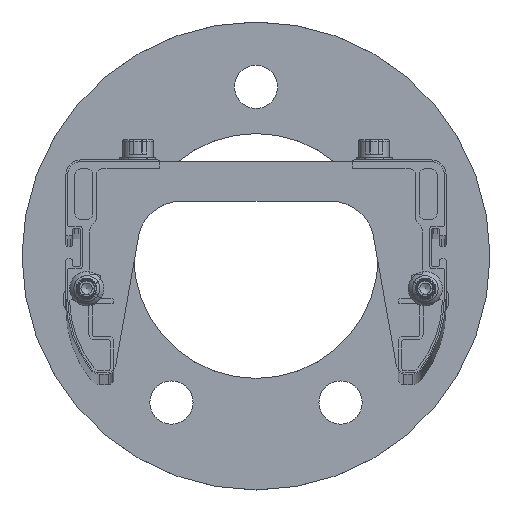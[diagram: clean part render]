
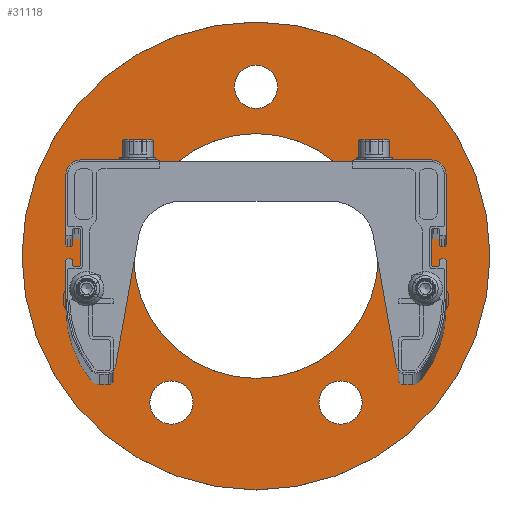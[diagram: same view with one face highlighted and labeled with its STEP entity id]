
A CAD part, top view. The second image highlights one B-rep face of the part: STEP entity #31118.
In plain terms, the highlighted planar face has unit normal (0, 0, 1).
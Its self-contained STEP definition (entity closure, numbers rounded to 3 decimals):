
#26496=PLANE('',#104198);
#31118=ADVANCED_FACE('',(#35068,#35069,#35070,#35071,#35072,#35073,#35074),
#26496,.T.);
#35068=FACE_BOUND('',#40669,.T.);
#35069=FACE_BOUND('',#40670,.T.);
#35070=FACE_BOUND('',#40671,.T.);
#35071=FACE_BOUND('',#40672,.T.);
#35072=FACE_BOUND('',#40673,.T.);
#35073=FACE_BOUND('',#40674,.T.);
#35074=FACE_BOUND('',#40675,.T.);
#40669=EDGE_LOOP('',(#64520));
#40670=EDGE_LOOP('',(#64521));
#40671=EDGE_LOOP('',(#64522));
#40672=EDGE_LOOP('',(#64523));
#40673=EDGE_LOOP('',(#64524));
#40674=EDGE_LOOP('',(#64525));
#40675=EDGE_LOOP('',(#64526));
#64520=ORIENTED_EDGE('',*,*,#88527,.F.);
#64521=ORIENTED_EDGE('',*,*,#88528,.F.);
#64522=ORIENTED_EDGE('',*,*,#88529,.F.);
#64523=ORIENTED_EDGE('',*,*,#88530,.T.);
#64524=ORIENTED_EDGE('',*,*,#88531,.T.);
#64525=ORIENTED_EDGE('',*,*,#88532,.T.);
#64526=ORIENTED_EDGE('',*,*,#88533,.F.);
#75868=VERTEX_POINT('',#168503);
#75869=VERTEX_POINT('',#168505);
#75870=VERTEX_POINT('',#168507);
#75871=VERTEX_POINT('',#168509);
#75872=VERTEX_POINT('',#168511);
#75873=VERTEX_POINT('',#168513);
#75874=VERTEX_POINT('',#168515);
#88527=EDGE_CURVE('',#75868,#75868,#94178,.T.);
#88528=EDGE_CURVE('',#75869,#75869,#94179,.T.);
#88529=EDGE_CURVE('',#75870,#75870,#94180,.T.);
#88530=EDGE_CURVE('',#75871,#75871,#94181,.T.);
#88531=EDGE_CURVE('',#75872,#75872,#94182,.T.);
#88532=EDGE_CURVE('',#75873,#75873,#94183,.T.);
#88533=EDGE_CURVE('',#75874,#75874,#94184,.T.);
#94178=CIRCLE('',#104191,6.);
#94179=CIRCLE('',#104192,6.);
#94180=CIRCLE('',#104193,6.);
#94181=CIRCLE('',#104194,34.);
#94182=CIRCLE('',#104195,3.6);
#94183=CIRCLE('',#104196,3.6);
#94184=CIRCLE('',#104197,65.);
#104191=AXIS2_PLACEMENT_3D('',#168502,#130504,#130505);
#104192=AXIS2_PLACEMENT_3D('',#168504,#130506,#130507);
#104193=AXIS2_PLACEMENT_3D('',#168506,#130508,#130509);
#104194=AXIS2_PLACEMENT_3D('',#168508,#130510,#130511);
#104195=AXIS2_PLACEMENT_3D('',#168510,#130512,#130513);
#104196=AXIS2_PLACEMENT_3D('',#168512,#130514,#130515);
#104197=AXIS2_PLACEMENT_3D('',#168514,#130516,#130517);
#104198=AXIS2_PLACEMENT_3D('',#168516,#130518,#130519);
#130504=DIRECTION('',(0.,0.,1.));
#130505=DIRECTION('',(-1.,0.,0.));
#130506=DIRECTION('',(0.,0.,1.));
#130507=DIRECTION('',(-1.,0.,0.));
#130508=DIRECTION('',(0.,0.,1.));
#130509=DIRECTION('',(-1.,0.,0.));
#130510=DIRECTION('',(0.,0.,-1.));
#130511=DIRECTION('',(-1.,0.,0.));
#130512=DIRECTION('',(0.,0.,-1.));
#130513=DIRECTION('',(1.,0.,0.));
#130514=DIRECTION('',(0.,0.,-1.));
#130515=DIRECTION('',(1.,0.,0.));
#130516=DIRECTION('',(0.,0.,-1.));
#130517=DIRECTION('',(-1.,0.,0.));
#130518=DIRECTION('',(0.,0.,1.));
#130519=DIRECTION('',(-1.,0.,0.));
#168502=CARTESIAN_POINT('',(293.846,-100.913,-285.));
#168503=CARTESIAN_POINT('',(287.846,-100.913,-285.));
#168504=CARTESIAN_POINT('',(317.346,-13.21,-285.));
#168505=CARTESIAN_POINT('',(311.346,-13.21,-285.));
#168506=CARTESIAN_POINT('',(340.846,-100.913,-285.));
#168507=CARTESIAN_POINT('',(334.846,-100.913,-285.));
#168508=CARTESIAN_POINT('',(317.346,-60.21,-285.));
#168509=CARTESIAN_POINT('',(283.346,-60.21,-285.));
#168510=CARTESIAN_POINT('',(364.346,-72.21,-285.));
#168511=CARTESIAN_POINT('',(367.946,-72.21,-285.));
#168512=CARTESIAN_POINT('',(270.346,-72.21,-285.));
#168513=CARTESIAN_POINT('',(273.946,-72.21,-285.));
#168514=CARTESIAN_POINT('',(317.346,-60.21,-285.));
#168515=CARTESIAN_POINT('',(252.346,-60.21,-285.));
#168516=CARTESIAN_POINT('',(252.346,-60.21,-285.));
